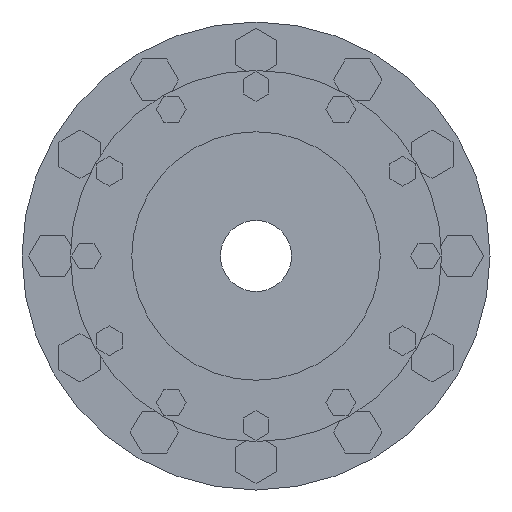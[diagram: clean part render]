
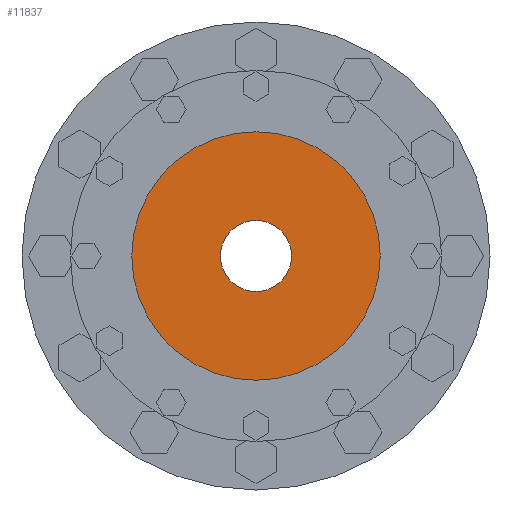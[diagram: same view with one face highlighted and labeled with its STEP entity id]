
A CAD part, left-side view. The second image highlights one B-rep face of the part: STEP entity #11837.
In plain terms, the highlighted planar face has unit normal (-1, 0, 0) as drawn and (1, 0, 0) by its records, which use the part's own axes.
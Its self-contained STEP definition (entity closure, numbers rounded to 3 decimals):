
#11661=CARTESIAN_POINT('',(-2.5,0.,0.));
#11662=DIRECTION('',(1.,0.,0.));
#11663=DIRECTION('',(0.,1.,0.));
#11664=AXIS2_PLACEMENT_3D('',#11661,#11662,#11663);
#11671=CARTESIAN_POINT('',(-2.5,0.,0.));
#11672=DIRECTION('',(-1.,0.,0.));
#11673=DIRECTION('',(0.,1.,0.));
#11674=AXIS2_PLACEMENT_3D('',#11671,#11672,#11673);
#11676=CARTESIAN_POINT('',(-2.5,0.,0.));
#11677=DIRECTION('',(1.,0.,0.));
#11678=DIRECTION('',(0.,1.,0.));
#11679=AXIS2_PLACEMENT_3D('',#11676,#11677,#11678);
#11755=CARTESIAN_POINT('',(-2.5,0.,0.));
#11756=DIRECTION('',(1.,0.,0.));
#11757=DIRECTION('',(0.,-1.,0.));
#11758=AXIS2_PLACEMENT_3D('',#11755,#11756,#11757);
#11782=CARTESIAN_POINT('',(-2.5,38.5,0.));
#11784=VERTEX_POINT('',#11782);
#11786=CARTESIAN_POINT('',(-2.5,-38.5,0.));
#11788=VERTEX_POINT('',#11786);
#11793=CARTESIAN_POINT('',(-2.5,11.,0.));
#11794=CARTESIAN_POINT('',(-2.5,-11.,0.));
#11795=VERTEX_POINT('',#11793);
#11796=VERTEX_POINT('',#11794);
#11821=CARTESIAN_POINT('',(-2.5,0.,0.));
#11822=DIRECTION('',(1.,0.,0.));
#11823=DIRECTION('',(0.,-1.,0.));
#11824=AXIS2_PLACEMENT_3D('',#11821,#11822,#11823);
#11825=PLANE('',#11824);
#11827=ORIENTED_EDGE('',*,*,#11826,.T.);
#11829=ORIENTED_EDGE('',*,*,#11828,.F.);
#11830=EDGE_LOOP('',(#11827,#11829));
#11831=FACE_OUTER_BOUND('',#11830,.F.);
#11832=ORIENTED_EDGE('',*,*,#11810,.T.);
#11834=ORIENTED_EDGE('',*,*,#11833,.T.);
#11835=EDGE_LOOP('',(#11832,#11834));
#11836=FACE_BOUND('',#11835,.F.);
#11837=ADVANCED_FACE('',(#11831,#11836),#11825,.T.);
#11665=CIRCLE('',#11664,11.);
#11675=CIRCLE('',#11674,38.5);
#11680=CIRCLE('',#11679,38.5);
#11759=CIRCLE('',#11758,11.);
#11810=EDGE_CURVE('',#11795,#11796,#11665,.T.);
#11826=EDGE_CURVE('',#11784,#11788,#11675,.T.);
#11828=EDGE_CURVE('',#11784,#11788,#11680,.T.);
#11833=EDGE_CURVE('',#11796,#11795,#11759,.T.);
